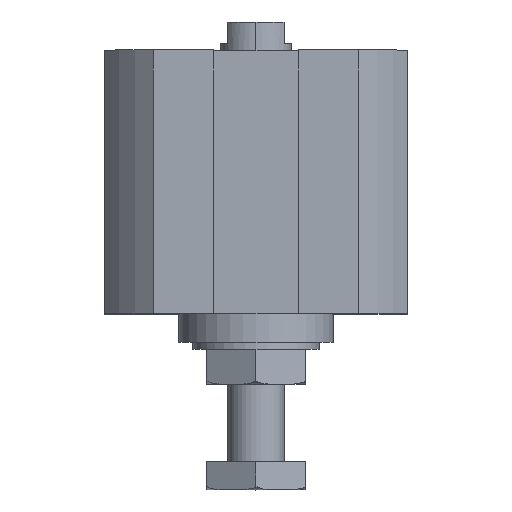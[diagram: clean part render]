
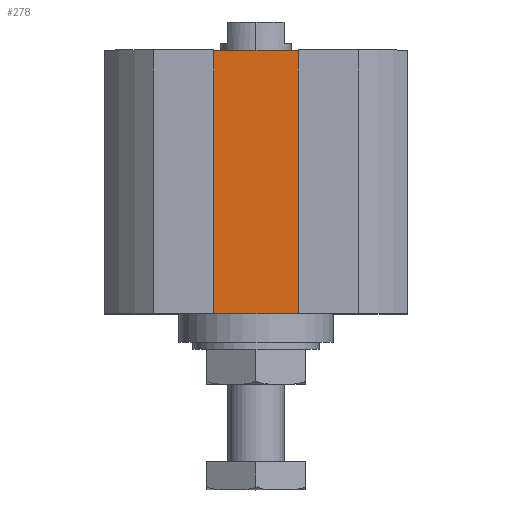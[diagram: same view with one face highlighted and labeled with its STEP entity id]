
A CAD part, top view. The second image highlights one B-rep face of the part: STEP entity #278.
In plain terms, the highlighted planar face has unit normal (0, 0, 1).
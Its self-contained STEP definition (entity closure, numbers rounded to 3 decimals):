
#32 = ORIENTED_EDGE ( 'NONE', *, *, #3277, .T. ) ;
#33 = VECTOR ( 'NONE', #2098, 1000. ) ;
#56 = ORIENTED_EDGE ( 'NONE', *, *, #3790, .T. ) ;
#138 = CARTESIAN_POINT ( 'NONE',  ( -7.7, 0., 14. ) ) ;
#278 = ADVANCED_FACE ( 'NONE', ( #1297 ), #1546, .T. ) ;
#391 = CARTESIAN_POINT ( 'NONE',  ( 7.7, 0., 14. ) ) ;
#408 = VECTOR ( 'NONE', #1074, 1000. ) ;
#463 = EDGE_LOOP ( 'NONE', ( #2254, #2837, #56, #32 ) ) ;
#610 = CARTESIAN_POINT ( 'NONE',  ( 0., -37.5, 14. ) ) ;
#966 = VECTOR ( 'NONE', #4196, 1000. ) ;
#999 = VERTEX_POINT ( 'NONE', #1614 ) ;
#1072 = EDGE_CURVE ( 'NONE', #999, #3837, #2684, .T. ) ;
#1074 = DIRECTION ( 'NONE',  ( 0., 1., 0. ) ) ;
#1297 = FACE_OUTER_BOUND ( 'NONE', #463, .T. ) ;
#1433 = CARTESIAN_POINT ( 'NONE',  ( 7.7, -37.5, 14. ) ) ;
#1446 = CARTESIAN_POINT ( 'NONE',  ( 7.7, -37.5, 14. ) ) ;
#1546 = PLANE ( 'NONE',  #4185 ) ;
#1614 = CARTESIAN_POINT ( 'NONE',  ( -7.7, -37.5, 14. ) ) ;
#1894 = DIRECTION ( 'NONE',  ( 1., 0., 0. ) ) ;
#1915 = CARTESIAN_POINT ( 'NONE',  ( 0., 0., 14. ) ) ;
#1984 = DIRECTION ( 'NONE',  ( 0., 1., 0. ) ) ;
#2098 = DIRECTION ( 'NONE',  ( 1., 0., 0. ) ) ;
#2170 = LINE ( 'NONE', #1446, #408 ) ;
#2175 = VECTOR ( 'NONE', #1984, 1000. ) ;
#2254 = ORIENTED_EDGE ( 'NONE', *, *, #3589, .F. ) ;
#2467 = LINE ( 'NONE', #610, #33 ) ;
#2684 = LINE ( 'NONE', #3615, #2175 ) ;
#2837 = ORIENTED_EDGE ( 'NONE', *, *, #1072, .F. ) ;
#3002 = VERTEX_POINT ( 'NONE', #391 ) ;
#3079 = LINE ( 'NONE', #1915, #966 ) ;
#3217 = DIRECTION ( 'NONE',  ( 0., 0., 1. ) ) ;
#3260 = VERTEX_POINT ( 'NONE', #1433 ) ;
#3277 = EDGE_CURVE ( 'NONE', #3260, #3002, #2170, .T. ) ;
#3589 = EDGE_CURVE ( 'NONE', #3837, #3002, #3079, .T. ) ;
#3615 = CARTESIAN_POINT ( 'NONE',  ( -7.7, -37.5, 14. ) ) ;
#3790 = EDGE_CURVE ( 'NONE', #999, #3260, #2467, .T. ) ;
#3837 = VERTEX_POINT ( 'NONE', #138 ) ;
#4161 = CARTESIAN_POINT ( 'NONE',  ( 0., -37.5, 14. ) ) ;
#4185 = AXIS2_PLACEMENT_3D ( 'NONE', #4161, #3217, #1894 ) ;
#4196 = DIRECTION ( 'NONE',  ( 1., 0., 0. ) ) ;
